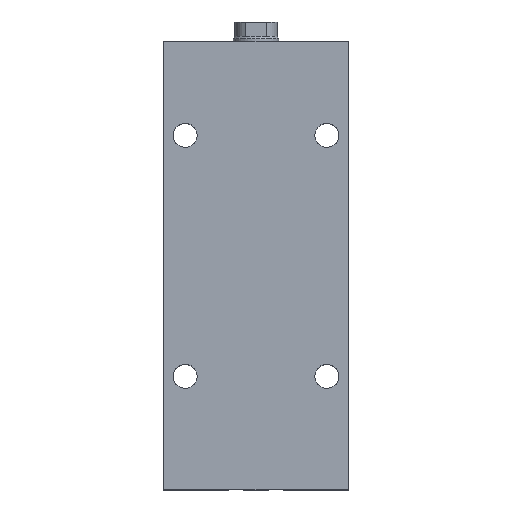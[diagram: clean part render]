
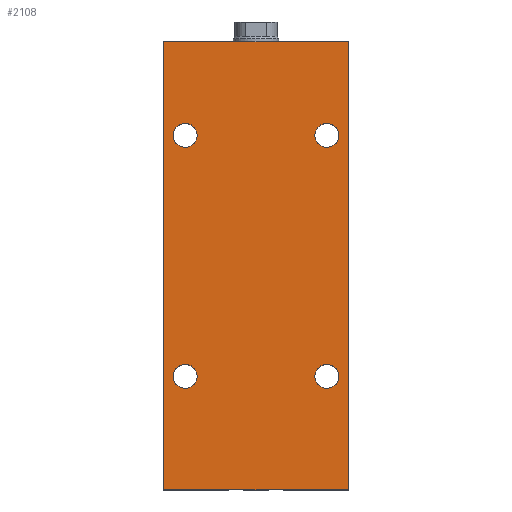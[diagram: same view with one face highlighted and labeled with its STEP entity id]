
A CAD part, top view. The second image highlights one B-rep face of the part: STEP entity #2108.
In plain terms, the highlighted planar face has unit normal (0, 0, 1).
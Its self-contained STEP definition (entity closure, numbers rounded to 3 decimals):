
#19 = DIRECTION ( 'NONE',  ( -1., 0., 0. ) ) ;
#22 = DIRECTION ( 'NONE',  ( 0., 0., 1. ) ) ;
#53 = EDGE_LOOP ( 'NONE', ( #864, #4926 ) ) ;
#82 = AXIS2_PLACEMENT_3D ( 'NONE', #3090, #776, #878 ) ;
#117 = VERTEX_POINT ( 'NONE', #2908 ) ;
#158 = VERTEX_POINT ( 'NONE', #2101 ) ;
#219 = EDGE_CURVE ( 'NONE', #2417, #4443, #3454, .T. ) ;
#246 = CARTESIAN_POINT ( 'NONE',  ( -32.5, 0., 22.5 ) ) ;
#294 = ORIENTED_EDGE ( 'NONE', *, *, #4756, .T. ) ;
#409 = AXIS2_PLACEMENT_3D ( 'NONE', #857, #3552, #1677 ) ;
#413 = VECTOR ( 'NONE', #1866, 1000. ) ;
#451 = CARTESIAN_POINT ( 'NONE',  ( -32.5, 58., 22.5 ) ) ;
#476 = FACE_BOUND ( 'NONE', #4512, .T. ) ;
#495 = DIRECTION ( 'NONE',  ( 1., 0., 0. ) ) ;
#583 = LINE ( 'NONE', #246, #413 ) ;
#648 = DIRECTION ( 'NONE',  ( 1., 0., 0. ) ) ;
#687 = DIRECTION ( 'NONE',  ( 1., 0., 0. ) ) ;
#708 = VECTOR ( 'NONE', #1977, 1000. ) ;
#776 = DIRECTION ( 'NONE',  ( 0., 0., 1. ) ) ;
#788 = VECTOR ( 'NONE', #1160, 1000. ) ;
#811 = VERTEX_POINT ( 'NONE', #4446 ) ;
#829 = CIRCLE ( 'NONE', #1254, 4.25 ) ;
#840 = LINE ( 'NONE', #2834, #4780 ) ;
#857 = CARTESIAN_POINT ( 'NONE',  ( 25., 40., 22.5 ) ) ;
#864 = ORIENTED_EDGE ( 'NONE', *, *, #2667, .F. ) ;
#872 = VERTEX_POINT ( 'NONE', #4850 ) ;
#878 = DIRECTION ( 'NONE',  ( 1., 0., 0. ) ) ;
#885 = CIRCLE ( 'NONE', #4803, 4.25 ) ;
#887 = CARTESIAN_POINT ( 'NONE',  ( 32.5, 0., 22.5 ) ) ;
#916 = CARTESIAN_POINT ( 'NONE',  ( 25., 125., 22.5 ) ) ;
#1078 = CARTESIAN_POINT ( 'NONE',  ( -20.75, 40., 22.5 ) ) ;
#1097 = CARTESIAN_POINT ( 'NONE',  ( -25., 125., 22.5 ) ) ;
#1101 = VERTEX_POINT ( 'NONE', #2052 ) ;
#1160 = DIRECTION ( 'NONE',  ( 0., -1., 0. ) ) ;
#1219 = CARTESIAN_POINT ( 'NONE',  ( 20.75, 125., 22.5 ) ) ;
#1244 = CIRCLE ( 'NONE', #2949, 4.25 ) ;
#1254 = AXIS2_PLACEMENT_3D ( 'NONE', #1097, #3812, #2651 ) ;
#1424 = DIRECTION ( 'NONE',  ( 0., 0., 1. ) ) ;
#1470 = AXIS2_PLACEMENT_3D ( 'NONE', #1666, #4723, #19 ) ;
#1472 = LINE ( 'NONE', #451, #708 ) ;
#1525 = CARTESIAN_POINT ( 'NONE',  ( 32.5, 58., 22.5 ) ) ;
#1651 = AXIS2_PLACEMENT_3D ( 'NONE', #3637, #1750, #3327 ) ;
#1666 = CARTESIAN_POINT ( 'NONE',  ( -32.5, 58., 22.5 ) ) ;
#1677 = DIRECTION ( 'NONE',  ( 1., 0., 0. ) ) ;
#1739 = AXIS2_PLACEMENT_3D ( 'NONE', #2541, #1424, #4050 ) ;
#1750 = DIRECTION ( 'NONE',  ( 0., 0., 1. ) ) ;
#1810 = EDGE_LOOP ( 'NONE', ( #2607, #1946 ) ) ;
#1825 = ORIENTED_EDGE ( 'NONE', *, *, #3860, .F. ) ;
#1866 = DIRECTION ( 'NONE',  ( 1., 0., 0. ) ) ;
#1946 = ORIENTED_EDGE ( 'NONE', *, *, #2971, .F. ) ;
#1977 = DIRECTION ( 'NONE',  ( 0., -1., 0. ) ) ;
#2031 = ORIENTED_EDGE ( 'NONE', *, *, #4689, .F. ) ;
#2052 = CARTESIAN_POINT ( 'NONE',  ( 32.5, 158., 22.5 ) ) ;
#2054 = ORIENTED_EDGE ( 'NONE', *, *, #4158, .F. ) ;
#2101 = CARTESIAN_POINT ( 'NONE',  ( -32.5, 158., 22.5 ) ) ;
#2108 = ADVANCED_FACE ( 'NONE', ( #2643, #2388, #2514, #476, #4832 ), #2431, .F. ) ;
#2240 = ORIENTED_EDGE ( 'NONE', *, *, #3942, .F. ) ;
#2388 = FACE_BOUND ( 'NONE', #53, .T. ) ;
#2411 = ORIENTED_EDGE ( 'NONE', *, *, #219, .F. ) ;
#2417 = VERTEX_POINT ( 'NONE', #1219 ) ;
#2431 = PLANE ( 'NONE',  #1470 ) ;
#2514 = FACE_BOUND ( 'NONE', #1810, .T. ) ;
#2531 = CARTESIAN_POINT ( 'NONE',  ( -25., 40., 22.5 ) ) ;
#2541 = CARTESIAN_POINT ( 'NONE',  ( 25., 125., 22.5 ) ) ;
#2548 = VERTEX_POINT ( 'NONE', #887 ) ;
#2551 = EDGE_CURVE ( 'NONE', #3877, #872, #4408, .T. ) ;
#2607 = ORIENTED_EDGE ( 'NONE', *, *, #2551, .F. ) ;
#2643 = FACE_BOUND ( 'NONE', #2686, .T. ) ;
#2651 = DIRECTION ( 'NONE',  ( 1., 0., 0. ) ) ;
#2667 = EDGE_CURVE ( 'NONE', #3571, #811, #829, .T. ) ;
#2686 = EDGE_LOOP ( 'NONE', ( #2054, #2411 ) ) ;
#2692 = VERTEX_POINT ( 'NONE', #1078 ) ;
#2834 = CARTESIAN_POINT ( 'NONE',  ( -32.5, 158., 22.5 ) ) ;
#2864 = ORIENTED_EDGE ( 'NONE', *, *, #3798, .F. ) ;
#2900 = LINE ( 'NONE', #1525, #788 ) ;
#2908 = CARTESIAN_POINT ( 'NONE',  ( -29.25, 40., 22.5 ) ) ;
#2949 = AXIS2_PLACEMENT_3D ( 'NONE', #916, #4038, #648 ) ;
#2971 = EDGE_CURVE ( 'NONE', #872, #3877, #3766, .T. ) ;
#2973 = CARTESIAN_POINT ( 'NONE',  ( -32.5, 0., 22.5 ) ) ;
#3090 = CARTESIAN_POINT ( 'NONE',  ( -25., 40., 22.5 ) ) ;
#3099 = DIRECTION ( 'NONE',  ( 1., 0., 0. ) ) ;
#3135 = VERTEX_POINT ( 'NONE', #2973 ) ;
#3223 = CARTESIAN_POINT ( 'NONE',  ( -20.75, 125., 22.5 ) ) ;
#3327 = DIRECTION ( 'NONE',  ( 1., 0., 0. ) ) ;
#3328 = DIRECTION ( 'NONE',  ( 0., 0., 1. ) ) ;
#3454 = CIRCLE ( 'NONE', #1739, 4.25 ) ;
#3552 = DIRECTION ( 'NONE',  ( 0., 0., 1. ) ) ;
#3571 = VERTEX_POINT ( 'NONE', #3223 ) ;
#3595 = CIRCLE ( 'NONE', #3777, 4.25 ) ;
#3637 = CARTESIAN_POINT ( 'NONE',  ( 25., 40., 22.5 ) ) ;
#3766 = CIRCLE ( 'NONE', #1651, 4.25 ) ;
#3777 = AXIS2_PLACEMENT_3D ( 'NONE', #2531, #3328, #687 ) ;
#3798 = EDGE_CURVE ( 'NONE', #1101, #2548, #2900, .T. ) ;
#3812 = DIRECTION ( 'NONE',  ( 0., 0., 1. ) ) ;
#3860 = EDGE_CURVE ( 'NONE', #2692, #117, #4899, .T. ) ;
#3877 = VERTEX_POINT ( 'NONE', #4210 ) ;
#3942 = EDGE_CURVE ( 'NONE', #158, #1101, #840, .T. ) ;
#3991 = ORIENTED_EDGE ( 'NONE', *, *, #4430, .T. ) ;
#4038 = DIRECTION ( 'NONE',  ( 0., 0., 1. ) ) ;
#4050 = DIRECTION ( 'NONE',  ( 1., 0., 0. ) ) ;
#4158 = EDGE_CURVE ( 'NONE', #4443, #2417, #1244, .T. ) ;
#4210 = CARTESIAN_POINT ( 'NONE',  ( 29.25, 40., 22.5 ) ) ;
#4241 = CARTESIAN_POINT ( 'NONE',  ( -25., 125., 22.5 ) ) ;
#4338 = EDGE_CURVE ( 'NONE', #811, #3571, #885, .T. ) ;
#4378 = EDGE_LOOP ( 'NONE', ( #294, #2864, #2240, #3991 ) ) ;
#4408 = CIRCLE ( 'NONE', #409, 4.25 ) ;
#4430 = EDGE_CURVE ( 'NONE', #158, #3135, #1472, .T. ) ;
#4443 = VERTEX_POINT ( 'NONE', #4635 ) ;
#4446 = CARTESIAN_POINT ( 'NONE',  ( -29.25, 125., 22.5 ) ) ;
#4512 = EDGE_LOOP ( 'NONE', ( #1825, #2031 ) ) ;
#4635 = CARTESIAN_POINT ( 'NONE',  ( 29.25, 125., 22.5 ) ) ;
#4689 = EDGE_CURVE ( 'NONE', #117, #2692, #3595, .T. ) ;
#4723 = DIRECTION ( 'NONE',  ( 0., 0., -1. ) ) ;
#4756 = EDGE_CURVE ( 'NONE', #3135, #2548, #583, .T. ) ;
#4780 = VECTOR ( 'NONE', #495, 1000. ) ;
#4803 = AXIS2_PLACEMENT_3D ( 'NONE', #4241, #22, #3099 ) ;
#4832 = FACE_OUTER_BOUND ( 'NONE', #4378, .T. ) ;
#4850 = CARTESIAN_POINT ( 'NONE',  ( 20.75, 40., 22.5 ) ) ;
#4899 = CIRCLE ( 'NONE', #82, 4.25 ) ;
#4926 = ORIENTED_EDGE ( 'NONE', *, *, #4338, .F. ) ;
